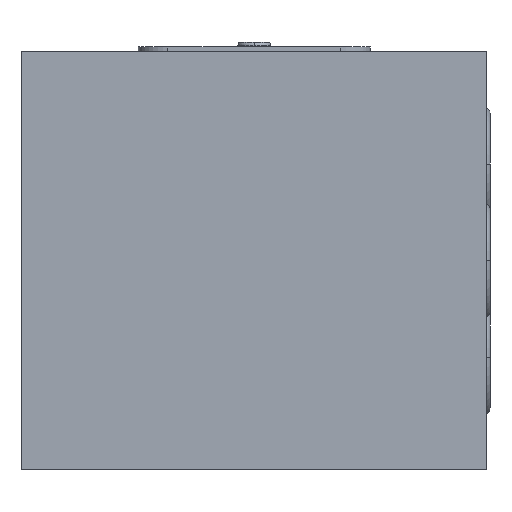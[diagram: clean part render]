
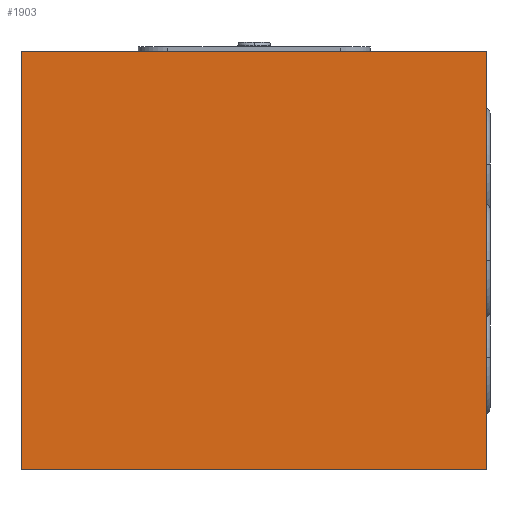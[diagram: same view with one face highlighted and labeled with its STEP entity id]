
A CAD part, left-side view. The second image highlights one B-rep face of the part: STEP entity #1903.
In plain terms, the highlighted planar face has unit normal (-1, 0, 0).
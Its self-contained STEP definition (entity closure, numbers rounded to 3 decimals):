
#52=DIRECTION('',(0.,0.,-1.));
#53=VECTOR('',#52,45.);
#54=CARTESIAN_POINT('',(0.,0.,0.));
#55=LINE('',#54,#53);
#59=DIRECTION('',(0.,1.,0.));
#60=VECTOR('',#59,50.);
#61=CARTESIAN_POINT('',(0.,0.,-45.));
#62=LINE('',#61,#60);
#66=DIRECTION('',(0.,0.,1.));
#67=VECTOR('',#66,45.);
#68=CARTESIAN_POINT('',(0.,50.,-45.));
#69=LINE('',#68,#67);
#73=DIRECTION('',(0.,-1.,0.));
#74=VECTOR('',#73,50.);
#75=CARTESIAN_POINT('',(0.,50.,0.));
#76=LINE('',#75,#74);
#1683=CARTESIAN_POINT('',(0.,0.,0.));
#1684=CARTESIAN_POINT('',(0.,0.,-45.));
#1685=VERTEX_POINT('',#1683);
#1686=VERTEX_POINT('',#1684);
#1687=CARTESIAN_POINT('',(0.,50.,-45.));
#1688=VERTEX_POINT('',#1687);
#1689=CARTESIAN_POINT('',(0.,50.,0.));
#1690=VERTEX_POINT('',#1689);
#1888=CARTESIAN_POINT('',(0.,0.,0.));
#1889=DIRECTION('',(1.,0.,0.));
#1890=DIRECTION('',(0.,0.,-1.));
#1891=AXIS2_PLACEMENT_3D('',#1888,#1889,#1890);
#1892=PLANE('',#1891);
#1894=ORIENTED_EDGE('',*,*,#1893,.T.);
#1896=ORIENTED_EDGE('',*,*,#1895,.T.);
#1898=ORIENTED_EDGE('',*,*,#1897,.T.);
#1900=ORIENTED_EDGE('',*,*,#1899,.T.);
#1901=EDGE_LOOP('',(#1894,#1896,#1898,#1900));
#1902=FACE_OUTER_BOUND('',#1901,.F.);
#1893=EDGE_CURVE('',#1685,#1686,#55,.T.);
#1895=EDGE_CURVE('',#1686,#1688,#62,.T.);
#1897=EDGE_CURVE('',#1688,#1690,#69,.T.);
#1899=EDGE_CURVE('',#1690,#1685,#76,.T.);
#1903=ADVANCED_FACE('',(#1902),#1892,.F.);
